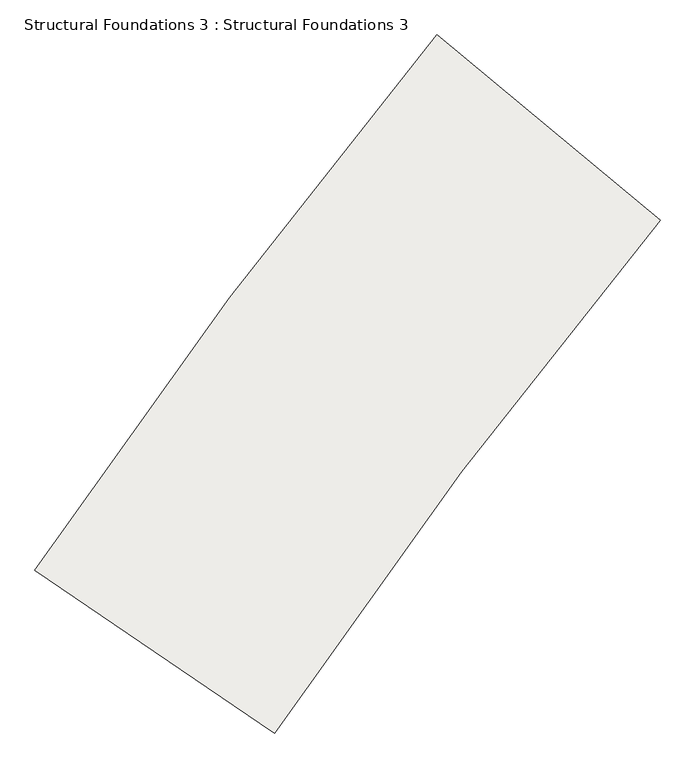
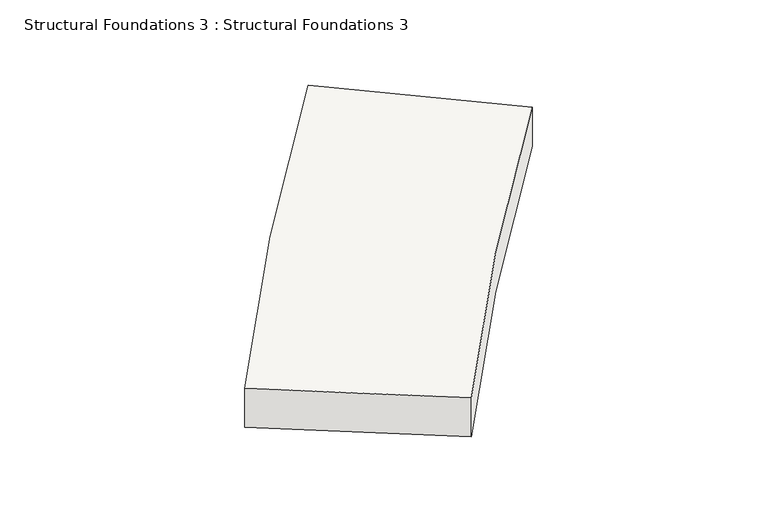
"""IFC4 building model written with IfcOpenShell, lengths in millimetres: slab geometry, Structural Foundations 3 : Structural Foundations 3."""

from ifc_helpers import new_model, si_unit, frame, origin, place, context, project, spatial, source, transform, mapped, element, save
from ifc_brep_helpers import plane_surface, spline_curve, spline_surface, advanced_brep


def structural_foundations_3_structural_foundations_3_2786f70f(model_context):
    return source(origin(), model_context, "Body", "AdvancedBrep", [
        advanced_brep(
        [(-336111.3413457, -486498.5552357, 634350.0), (-336111.3413457, -486498.5552357, 633550.0), (-339034.4191181, -484070.4662059, 633550.0), (-339034.4191181, -484070.4662059, 634350.0), (-341164.4808361, -493217.5354786, 634260.0), (-344308.2704482, -491082.919149, 634260.0), (-344308.2704482, -491082.919149, 633460.0), (-341164.4808361, -493217.5354786, 633460.0)],
        [
            (0, 1),
            (1, 2),
            (2, 3),
            (3, 0),
            (4, 5),
            (5, 6),
            (6, 7),
            (7, 4),
            (7, 1, spline_curve(3, [(-341164.4808361, -493217.5354786, 633460.0), (-340377.074263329, -492057.870123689, 633475.000000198), (-339561.63585748, -490917.238311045, 633489.999999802), (-337876.60005432, -488676.706005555, 633520.000000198), (-337007.002657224, -487576.805513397, 633534.999999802), (-336111.3413457, -486498.5552357, 633550.0)], [4, 2, 4], [0.0, 13.795909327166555, 27.591818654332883])),
            (0, 4, spline_curve(3, [(-336111.3413457, -486498.5552357, 634350.0), (-337007.002657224, -487576.805513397, 634334.999999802), (-337876.60005432, -488676.706005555, 634320.000000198), (-339561.63585748, -490917.238311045, 634289.999999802), (-340377.074263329, -492057.870123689, 634275.000000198), (-341164.4808361, -493217.5354786, 634260.0)], [4, 2, 4], [0.0, 13.795909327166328, 27.591818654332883])),
            (6, 2, spline_curve(3, [(-344308.2704482, -491082.919149, 633460.0), (-343486.471404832, -489872.601744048, 633474.999999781), (-342635.416148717, -488682.149231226, 633490.000000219), (-340876.781080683, -486343.754595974, 633519.999999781), (-339969.201268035, -485195.812472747, 633535.000000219), (-339034.4191181, -484070.4662059, 633550.0)], [4, 2, 4], [0.0, 14.097165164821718, 28.194330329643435])),
            (5, 3, spline_curve(3, [(-344308.2704482, -491082.919149, 634260.0), (-343486.4714044, -489872.601743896, 634274.999999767), (-342635.416148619, -488682.149231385, 634290.000000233), (-340876.781080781, -486343.754595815, 634319.999999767), (-339969.201268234, -485195.812472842, 634335.000000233), (-339034.4191181, -484070.4662059, 634350.0)], [4, 2, 4], [0.0, 14.398421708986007, 28.796843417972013])),
        ],
        [
            plane_surface(frame((-337572.8802319, -485284.5107208, 633950.0), z_axis=(0.6389707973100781, 0.7692309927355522, 0.0), x_axis=(-0.7692309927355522, 0.6389707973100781, 0.0))),
            plane_surface(frame((-342736.3756422, -492150.2273138, 633860.0), z_axis=(-0.5617411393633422, -0.8273130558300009, 0.0), x_axis=(0.0, 0.0, -1.0))),
            spline_surface(3, 3, [[(-341164.4808361, -493217.5354786, 634260.0), (-340377.074263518, -492057.870123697, 634275.0), (-339561.635857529, -490917.238310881, 634290.0), (-337876.600054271, -488676.706005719, 634320.0), (-337007.002656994, -487576.8055134, 634335.0), (-336111.3413457, -486498.5552357, 634350.0)], [(-341164.4808361, -493217.5354786, 634126.666666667), (-340377.074263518, -492057.870123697, 634141.666666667), (-339561.635857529, -490917.238310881, 634156.666666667), (-337876.600054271, -488676.706005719, 634186.666666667), (-337007.002656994, -487576.8055134, 634201.666666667), (-336111.3413457, -486498.5552357, 634216.666666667)], [(-341164.4808361, -493217.5354786, 633993.333333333), (-340377.074263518, -492057.870123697, 634008.333333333), (-339561.635857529, -490917.238310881, 634023.333333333), (-337876.600054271, -488676.706005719, 634053.333333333), (-337007.002656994, -487576.8055134, 634068.333333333), (-336111.3413457, -486498.5552357, 634083.333333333)], [(-341164.4808361, -493217.5354786, 633726.666666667), (-340377.074263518, -492057.870123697, 633741.666666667), (-339561.635857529, -490917.238310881, 633756.666666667), (-337876.600054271, -488676.706005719, 633786.666666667), (-337007.002656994, -487576.8055134, 633801.666666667), (-336111.3413457, -486498.5552357, 633816.666666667)], [(-341164.4808361, -493217.5354786, 633593.333333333), (-340377.074263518, -492057.870123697, 633608.333333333), (-339561.635857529, -490917.238310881, 633623.333333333), (-337876.600054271, -488676.706005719, 633653.333333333), (-337007.002656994, -487576.8055134, 633668.333333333), (-336111.3413457, -486498.5552357, 633683.333333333)], [(-341164.4808361, -493217.5354786, 633460.0), (-340377.074263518, -492057.870123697, 633475.0), (-339561.635857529, -490917.238310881, 633490.0), (-337876.600054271, -488676.706005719, 633520.0), (-337007.002656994, -487576.8055134, 633535.0), (-336111.3413457, -486498.5552357, 633550.0)]], [4, 2, 4], [4, 2, 4], [0.0, 1.3123359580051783, 2.6246719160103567], [0.0, 13.795909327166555, 27.591818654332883]),
            spline_surface(3, 3, [[(-341164.4808361, -493217.5354786, 633460.0), (-340377.074263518, -492057.870123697, 633475.0), (-339561.635857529, -490917.238310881, 633490.0), (-337876.600054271, -488676.706005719, 633520.0), (-337007.002656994, -487576.8055134, 633535.0), (-336111.3413457, -486498.5552357, 633550.0)], [(-341688.445771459, -492861.766090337, 633460.0), (-340895.30712038, -491693.658727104, 633475.0), (-340073.932573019, -490544.723464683, 633490.0), (-338376.630225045, -488287.880770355, 633520.0), (-337500.702425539, -487179.973339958, 633535.0), (-336598.520974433, -486093.873730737, 633550.0)], [(-342212.410706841, -492505.996702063, 633460.0), (-341413.539977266, -491329.447330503, 633475.0), (-340586.229287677, -490172.208617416, 633490.0), (-338876.66039666, -487899.055536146, 633520.0), (-337994.402194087, -486783.141166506, 633535.0), (-337085.700603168, -485689.192225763, 633550.0)], [(-343260.340577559, -491794.457925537, 633460.0), (-342450.005690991, -490601.024537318, 633475.0), (-341610.822718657, -489427.17892502, 633490.0), (-339876.720738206, -487121.405065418, 633520.0), (-338981.801731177, -485989.476819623, 633535.0), (-338060.059860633, -484879.829215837, 633550.0)], [(-343784.305512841, -491438.688537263, 633460.0), (-342968.238547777, -490236.813140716, 633475.0), (-342123.119433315, -489054.664077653, 633490.0), (-340376.750909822, -486732.579831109, 633520.0), (-339475.501499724, -485592.644646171, 633535.0), (-338547.239489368, -484475.147710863, 633550.0)], [(-344308.2704482, -491082.919149, 633460.0), (-343486.471404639, -489872.601744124, 633475.0), (-342635.416148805, -488682.149231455, 633490.0), (-340876.781080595, -486343.754595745, 633520.0), (-339969.201268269, -485195.81247273, 633535.0), (-339034.4191181, -484070.4662059, 633550.0)]], [4, 2, 4], [4, 2, 4], [0.0, 6.233595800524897, 12.467191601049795], [0.0, 14.097165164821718, 28.194330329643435]),
            spline_surface(3, 3, [[(-344308.2704482, -491082.919149, 633460.0), (-343486.471404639, -489872.601744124, 633475.0), (-342635.416148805, -488682.149231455, 633490.0), (-340876.781080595, -486343.754595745, 633520.0), (-339969.201268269, -485195.81247273, 633535.0), (-339034.4191181, -484070.4662059, 633550.0)], [(-344308.2704482, -491082.919149, 633593.333333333), (-343486.471404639, -489872.601744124, 633608.333333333), (-342635.416148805, -488682.149231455, 633623.333333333), (-340876.781080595, -486343.754595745, 633653.333333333), (-339969.201268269, -485195.81247273, 633668.333333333), (-339034.4191181, -484070.4662059, 633683.333333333)], [(-344308.2704482, -491082.919149, 633726.666666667), (-343486.471404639, -489872.601744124, 633741.666666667), (-342635.416148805, -488682.149231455, 633756.666666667), (-340876.781080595, -486343.754595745, 633786.666666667), (-339969.201268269, -485195.81247273, 633801.666666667), (-339034.4191181, -484070.4662059, 633816.666666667)], [(-344308.2704482, -491082.919149, 633993.333333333), (-343486.471404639, -489872.601744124, 634008.333333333), (-342635.416148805, -488682.149231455, 634023.333333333), (-340876.781080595, -486343.754595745, 634053.333333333), (-339969.201268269, -485195.81247273, 634068.333333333), (-339034.4191181, -484070.4662059, 634083.333333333)], [(-344308.2704482, -491082.919149, 634126.666666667), (-343486.471404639, -489872.601744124, 634141.666666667), (-342635.416148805, -488682.149231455, 634156.666666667), (-340876.781080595, -486343.754595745, 634186.666666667), (-339969.201268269, -485195.81247273, 634201.666666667), (-339034.4191181, -484070.4662059, 634216.666666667)], [(-344308.2704482, -491082.919149, 634260.0), (-343486.471404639, -489872.601744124, 634275.0), (-342635.416148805, -488682.149231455, 634290.0), (-340876.781080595, -486343.754595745, 634320.0), (-339969.201268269, -485195.81247273, 634335.0), (-339034.4191181, -484070.4662059, 634350.0)]], [4, 2, 4], [4, 2, 4], [0.0, 1.3123359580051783, 2.6246719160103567], [0.0, 14.398421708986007, 28.796843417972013]),
            spline_surface(3, 3, [[(-344308.2704482, -491082.919149, 634260.0), (-343486.471404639, -489872.601744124, 634275.0), (-342635.416148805, -488682.149231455, 634290.0), (-340876.781080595, -486343.754595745, 634320.0), (-339969.201268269, -485195.81247273, 634335.0), (-339034.4191181, -484070.4662059, 634350.0)], [(-343784.305512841, -491438.688537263, 634260.0), (-342968.238547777, -490236.813140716, 634275.0), (-342123.119433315, -489054.664077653, 634290.0), (-340376.750909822, -486732.579831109, 634320.0), (-339475.501499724, -485592.644646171, 634335.0), (-338547.239489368, -484475.147710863, 634350.0)], [(-343260.340577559, -491794.457925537, 634260.0), (-342450.005690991, -490601.024537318, 634275.0), (-341610.822718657, -489427.17892502, 634290.0), (-339876.720738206, -487121.405065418, 634320.0), (-338981.801731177, -485989.476819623, 634335.0), (-338060.059860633, -484879.829215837, 634350.0)], [(-342212.410706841, -492505.996702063, 634260.0), (-341413.539977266, -491329.447330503, 634275.0), (-340586.229287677, -490172.208617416, 634290.0), (-338876.66039666, -487899.055536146, 634320.0), (-337994.402194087, -486783.141166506, 634335.0), (-337085.700603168, -485689.192225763, 634350.0)], [(-341688.445771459, -492861.766090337, 634260.0), (-340895.30712038, -491693.658727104, 634275.0), (-340073.932573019, -490544.723464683, 634290.0), (-338376.630225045, -488287.880770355, 634320.0), (-337500.702425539, -487179.973339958, 634335.0), (-336598.520974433, -486093.873730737, 634350.0)], [(-341164.4808361, -493217.5354786, 634260.0), (-340377.074263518, -492057.870123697, 634275.0), (-339561.635857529, -490917.238310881, 634290.0), (-337876.600054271, -488676.706005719, 634320.0), (-337007.002656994, -487576.8055134, 634335.0), (-336111.3413457, -486498.5552357, 634350.0)]], [4, 2, 4], [4, 2, 4], [0.0, 6.233595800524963, 12.467191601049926], [0.0, 14.097165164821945, 28.194330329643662]),
        ],
        [
            (0, [[1, 2, 3, 4]]),
            (1, [[5, 6, 7, 8]]),
            (2, [[-8, 9, -1, 10]]),
            (3, [[-7, 11, -2, -9]]),
            (4, [[-6, 12, -3, -11]]),
            (5, [[-5, -10, -4, -12]]),
        ],
    ),
    ])


if __name__ == "__main__":
    model = new_model("IFC4")
    model_context = context("Model", 3, world=origin())
    ifc_project = project(units=[si_unit("LENGTHUNIT", "METRE", prefix="MILLI")], contexts=[model_context])
    site = spatial("IfcSite", under=ifc_project)
    building = spatial("IfcBuilding", under=site)
    placement = place(None, origin())
    structural_foundations_3_structural_foundations_3_shape = structural_foundations_3_structural_foundations_3_2786f70f(model_context)
    element("IfcSlab", 1, ObjectType="Structural Foundations 3 : Structural Foundations 3", at=placement, inside=building, context=model_context, shape_type="MappedRepresentation", body=[
        mapped(structural_foundations_3_structural_foundations_3_shape, transform((0.0, 0.0, 0.0), x_axis=(1.0, 0.0, 0.0), y_axis=(0.0, 1.0, 0.0), z_axis=(0.0, 0.0, 1.0))),
    ])
    save(model, "model.ifc")
